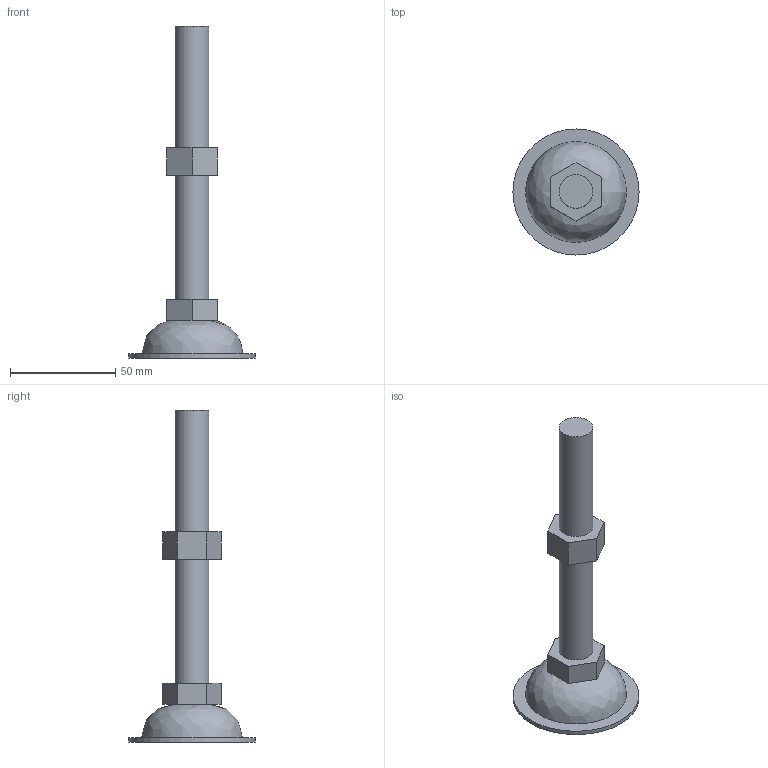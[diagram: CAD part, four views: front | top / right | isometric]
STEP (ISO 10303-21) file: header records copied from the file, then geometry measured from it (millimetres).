
FILE_DESCRIPTION((''),'2;1');
FILE_NAME('C:\Documents and Settings\古川典政\My Documents\Inventor\HP用\MasterData\ACCESSORY\M6\LFS60-16.stp','2008-08-05T14:49:40',(''),(''),'Autodesk Inventor 2008','Autodesk Inventor 2008','');
FILE_SCHEMA(('CONFIG_CONTROL_DESIGN'));
Length unit declared in the file: millimetre
Products named in the file (3): LFS60-16; LFS60-161; LFS60-162
Assembly tree (2 placements, depth 2):
  LFS60-16
    LFS60-161
    LFS60-162
Bounding box: 60 x 60 x 158 mm (x, y, z)
Volume: 43213 mm3; surface area: 18878.9 mm2
Topology: 2 solids, 2 shells, 26 faces, 54 edges, 36 vertices
Faces by surface type: plane 20, bspline 3, cylinder 3
Full cylindrical faces by diameter (mm): 16 x1, 44 x1, 60 x1
Entity records: 819 total; most frequent: CARTESIAN_POINT 218, DIRECTION 114, ORIENTED_EDGE 94, EDGE_CURVE 47, AXIS2_PLACEMENT_3D 39, EDGE_LOOP 38, VECTOR 36, LINE 36
